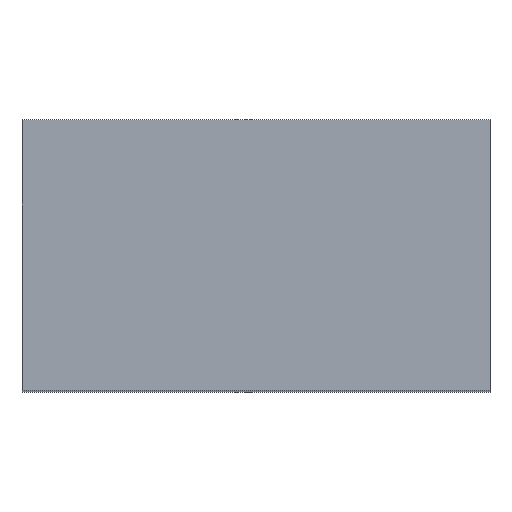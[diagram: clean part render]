
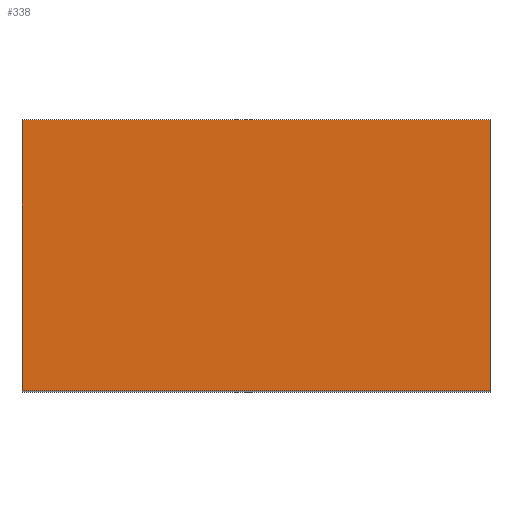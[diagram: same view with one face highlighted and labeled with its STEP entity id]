
A CAD part, top view. The second image highlights one B-rep face of the part: STEP entity #338.
In plain terms, the highlighted planar face has unit normal (0, 0, 1).
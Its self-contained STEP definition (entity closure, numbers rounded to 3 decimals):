
#24 = VERTEX_POINT('',#25);
#25 = CARTESIAN_POINT('',(190.,-110.,766.5));
#32 = PLANE('',#33);
#33 = AXIS2_PLACEMENT_3D('',#34,#35,#36);
#34 = CARTESIAN_POINT('',(190.,-110.,0.));
#35 = DIRECTION('',(-0.,1.,-0.));
#36 = DIRECTION('',(1.,0.,0.));
#44 = PLANE('',#45);
#45 = AXIS2_PLACEMENT_3D('',#46,#47,#48);
#46 = CARTESIAN_POINT('',(190.,110.,0.));
#47 = DIRECTION('',(-1.,-0.,-0.));
#48 = DIRECTION('',(0.,1.,0.));
#56 = EDGE_CURVE('',#24,#57,#59,.T.);
#57 = VERTEX_POINT('',#58);
#58 = CARTESIAN_POINT('',(-190.,-110.,766.5));
#59 = SURFACE_CURVE('',#60,(#64,#71),.PCURVE_S1.);
#60 = LINE('',#61,#62);
#61 = CARTESIAN_POINT('',(190.,-110.,766.5));
#62 = VECTOR('',#63,1.);
#63 = DIRECTION('',(-1.,-0.,-0.));
#64 = PCURVE('',#32,#65);
#65 = DEFINITIONAL_REPRESENTATION('',(#66),#70);
#66 = LINE('',#67,#68);
#67 = CARTESIAN_POINT('',(-0.,-766.5));
#68 = VECTOR('',#69,1.);
#69 = DIRECTION('',(-1.,0.));
#70 = ( GEOMETRIC_REPRESENTATION_CONTEXT(2) 
PARAMETRIC_REPRESENTATION_CONTEXT() REPRESENTATION_CONTEXT('2D SPACE',''
  ) );
#71 = PCURVE('',#72,#77);
#72 = PLANE('',#73);
#73 = AXIS2_PLACEMENT_3D('',#74,#75,#76);
#74 = CARTESIAN_POINT('',(0.,0.,766.5));
#75 = DIRECTION('',(-0.,-0.,1.));
#76 = DIRECTION('',(1.,0.,0.));
#77 = DEFINITIONAL_REPRESENTATION('',(#78),#82);
#78 = LINE('',#79,#80);
#79 = CARTESIAN_POINT('',(190.,-110.));
#80 = VECTOR('',#81,1.);
#81 = DIRECTION('',(-1.,0.));
#82 = ( GEOMETRIC_REPRESENTATION_CONTEXT(2) 
PARAMETRIC_REPRESENTATION_CONTEXT() REPRESENTATION_CONTEXT('2D SPACE',''
  ) );
#100 = PLANE('',#101);
#101 = AXIS2_PLACEMENT_3D('',#102,#103,#104);
#102 = CARTESIAN_POINT('',(-190.,-110.,0.));
#103 = DIRECTION('',(1.,-0.,-0.));
#104 = DIRECTION('',(0.,-1.,0.));
#142 = EDGE_CURVE('',#57,#143,#145,.T.);
#143 = VERTEX_POINT('',#144);
#144 = CARTESIAN_POINT('',(-190.,110.,766.5));
#145 = SURFACE_CURVE('',#146,(#150,#157),.PCURVE_S1.);
#146 = LINE('',#147,#148);
#147 = CARTESIAN_POINT('',(-190.,-110.,766.5));
#148 = VECTOR('',#149,1.);
#149 = DIRECTION('',(-0.,1.,-0.));
#150 = PCURVE('',#100,#151);
#151 = DEFINITIONAL_REPRESENTATION('',(#152),#156);
#152 = LINE('',#153,#154);
#153 = CARTESIAN_POINT('',(-0.,-766.5));
#154 = VECTOR('',#155,1.);
#155 = DIRECTION('',(-1.,0.));
#156 = ( GEOMETRIC_REPRESENTATION_CONTEXT(2) 
PARAMETRIC_REPRESENTATION_CONTEXT() REPRESENTATION_CONTEXT('2D SPACE',''
  ) );
#157 = PCURVE('',#72,#158);
#158 = DEFINITIONAL_REPRESENTATION('',(#159),#163);
#159 = LINE('',#160,#161);
#160 = CARTESIAN_POINT('',(-190.,-110.));
#161 = VECTOR('',#162,1.);
#162 = DIRECTION('',(-0.,1.));
#163 = ( GEOMETRIC_REPRESENTATION_CONTEXT(2) 
PARAMETRIC_REPRESENTATION_CONTEXT() REPRESENTATION_CONTEXT('2D SPACE',''
  ) );
#181 = PLANE('',#182);
#182 = AXIS2_PLACEMENT_3D('',#183,#184,#185);
#183 = CARTESIAN_POINT('',(-190.,110.,0.));
#184 = DIRECTION('',(-0.,-1.,-0.));
#185 = DIRECTION('',(-1.,0.,0.));
#218 = EDGE_CURVE('',#143,#219,#221,.T.);
#219 = VERTEX_POINT('',#220);
#220 = CARTESIAN_POINT('',(190.,110.,766.5));
#221 = SURFACE_CURVE('',#222,(#226,#233),.PCURVE_S1.);
#222 = LINE('',#223,#224);
#223 = CARTESIAN_POINT('',(-190.,110.,766.5));
#224 = VECTOR('',#225,1.);
#225 = DIRECTION('',(1.,-0.,-0.));
#226 = PCURVE('',#181,#227);
#227 = DEFINITIONAL_REPRESENTATION('',(#228),#232);
#228 = LINE('',#229,#230);
#229 = CARTESIAN_POINT('',(-0.,-766.5));
#230 = VECTOR('',#231,1.);
#231 = DIRECTION('',(-1.,0.));
#232 = ( GEOMETRIC_REPRESENTATION_CONTEXT(2) 
PARAMETRIC_REPRESENTATION_CONTEXT() REPRESENTATION_CONTEXT('2D SPACE',''
  ) );
#233 = PCURVE('',#72,#234);
#234 = DEFINITIONAL_REPRESENTATION('',(#235),#239);
#235 = LINE('',#236,#237);
#236 = CARTESIAN_POINT('',(-190.,110.));
#237 = VECTOR('',#238,1.);
#238 = DIRECTION('',(1.,-0.));
#239 = ( GEOMETRIC_REPRESENTATION_CONTEXT(2) 
PARAMETRIC_REPRESENTATION_CONTEXT() REPRESENTATION_CONTEXT('2D SPACE',''
  ) );
#289 = EDGE_CURVE('',#219,#24,#290,.T.);
#290 = SURFACE_CURVE('',#291,(#295,#302),.PCURVE_S1.);
#291 = LINE('',#292,#293);
#292 = CARTESIAN_POINT('',(190.,110.,766.5));
#293 = VECTOR('',#294,1.);
#294 = DIRECTION('',(-0.,-1.,-0.));
#295 = PCURVE('',#44,#296);
#296 = DEFINITIONAL_REPRESENTATION('',(#297),#301);
#297 = LINE('',#298,#299);
#298 = CARTESIAN_POINT('',(-0.,-766.5));
#299 = VECTOR('',#300,1.);
#300 = DIRECTION('',(-1.,0.));
#301 = ( GEOMETRIC_REPRESENTATION_CONTEXT(2) 
PARAMETRIC_REPRESENTATION_CONTEXT() REPRESENTATION_CONTEXT('2D SPACE',''
  ) );
#302 = PCURVE('',#72,#303);
#303 = DEFINITIONAL_REPRESENTATION('',(#304),#308);
#304 = LINE('',#305,#306);
#305 = CARTESIAN_POINT('',(190.,110.));
#306 = VECTOR('',#307,1.);
#307 = DIRECTION('',(-0.,-1.));
#308 = ( GEOMETRIC_REPRESENTATION_CONTEXT(2) 
PARAMETRIC_REPRESENTATION_CONTEXT() REPRESENTATION_CONTEXT('2D SPACE',''
  ) );
#338 = ADVANCED_FACE('',(#339),#72,.T.);
#339 = FACE_BOUND('',#340,.F.);
#340 = EDGE_LOOP('',(#341,#342,#343,#344));
#341 = ORIENTED_EDGE('',*,*,#56,.T.);
#342 = ORIENTED_EDGE('',*,*,#142,.T.);
#343 = ORIENTED_EDGE('',*,*,#218,.T.);
#344 = ORIENTED_EDGE('',*,*,#289,.T.);
